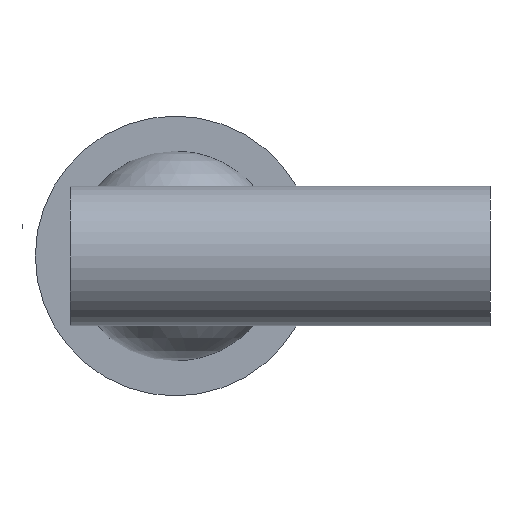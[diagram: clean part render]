
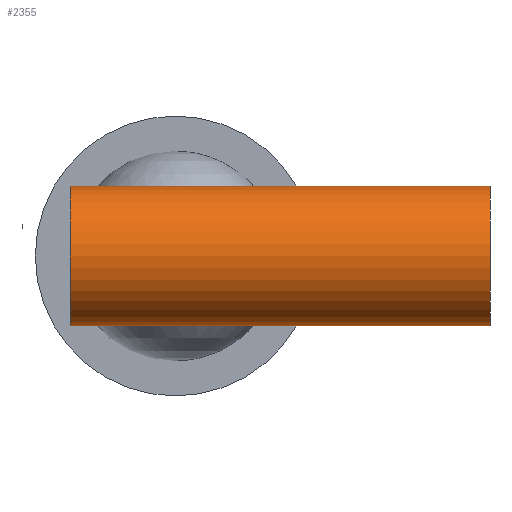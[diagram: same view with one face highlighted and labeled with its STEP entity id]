
A CAD part, front view. The second image highlights one B-rep face of the part: STEP entity #2355.
In plain terms, the highlighted cylindrical face has radius 20 mm (diameter 40 mm), a partial arc.
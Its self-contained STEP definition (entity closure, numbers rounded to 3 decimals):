
#141 = DIRECTION ( 'NONE',  ( 0., 0., -1. ) ) ;
#164 = CIRCLE ( 'NONE', #1850, 20. ) ;
#292 = CARTESIAN_POINT ( 'NONE',  ( -30., -130., 20. ) ) ;
#342 = DIRECTION ( 'NONE',  ( 1., 0., 0. ) ) ;
#432 = CIRCLE ( 'NONE', #1654, 20. ) ;
#454 = ORIENTED_EDGE ( 'NONE', *, *, #2608, .F. ) ;
#521 = DIRECTION ( 'NONE',  ( 0., 0., -1. ) ) ;
#528 = CARTESIAN_POINT ( 'NONE',  ( 90., -130., -20. ) ) ;
#559 = ORIENTED_EDGE ( 'NONE', *, *, #2578, .F. ) ;
#834 = CARTESIAN_POINT ( 'NONE',  ( -30., -130., 0. ) ) ;
#886 = LINE ( 'NONE', #292, #2593 ) ;
#997 = DIRECTION ( 'NONE',  ( 0., 0., -1. ) ) ;
#1157 = CYLINDRICAL_SURFACE ( 'NONE', #3371, 20. ) ;
#1250 = DIRECTION ( 'NONE',  ( 1., 0., 0. ) ) ;
#1284 = LINE ( 'NONE', #1894, #2459 ) ;
#1327 = ORIENTED_EDGE ( 'NONE', *, *, #2236, .T. ) ;
#1450 = VERTEX_POINT ( 'NONE', #3256 ) ;
#1453 = DIRECTION ( 'NONE',  ( 1., 0., 0. ) ) ;
#1654 = AXIS2_PLACEMENT_3D ( 'NONE', #3879, #1678, #997 ) ;
#1678 = DIRECTION ( 'NONE',  ( 1., 0., 0. ) ) ;
#1850 = AXIS2_PLACEMENT_3D ( 'NONE', #834, #1453, #141 ) ;
#1855 = ORIENTED_EDGE ( 'NONE', *, *, #4030, .T. ) ;
#1888 = CARTESIAN_POINT ( 'NONE',  ( -30., -130., 20. ) ) ;
#1894 = CARTESIAN_POINT ( 'NONE',  ( -30., -130., -20. ) ) ;
#1951 = VERTEX_POINT ( 'NONE', #528 ) ;
#2236 = EDGE_CURVE ( 'NONE', #3552, #3757, #164, .T. ) ;
#2355 = ADVANCED_FACE ( 'NONE', ( #3359 ), #1157, .T. ) ;
#2459 = VECTOR ( 'NONE', #342, 1000. ) ;
#2578 = EDGE_CURVE ( 'NONE', #3552, #1450, #886, .T. ) ;
#2593 = VECTOR ( 'NONE', #1250, 1000. ) ;
#2608 = EDGE_CURVE ( 'NONE', #1450, #1951, #432, .T. ) ;
#2702 = DIRECTION ( 'NONE',  ( 1., 0., 0. ) ) ;
#2765 = CARTESIAN_POINT ( 'NONE',  ( -30., -130., 0. ) ) ;
#3256 = CARTESIAN_POINT ( 'NONE',  ( 90., -130., 20. ) ) ;
#3271 = CARTESIAN_POINT ( 'NONE',  ( -30., -130., -20. ) ) ;
#3359 = FACE_OUTER_BOUND ( 'NONE', #3645, .T. ) ;
#3371 = AXIS2_PLACEMENT_3D ( 'NONE', #2765, #2702, #521 ) ;
#3552 = VERTEX_POINT ( 'NONE', #1888 ) ;
#3645 = EDGE_LOOP ( 'NONE', ( #559, #1327, #1855, #454 ) ) ;
#3757 = VERTEX_POINT ( 'NONE', #3271 ) ;
#3879 = CARTESIAN_POINT ( 'NONE',  ( 90., -130., 0. ) ) ;
#4030 = EDGE_CURVE ( 'NONE', #3757, #1951, #1284, .T. ) ;
